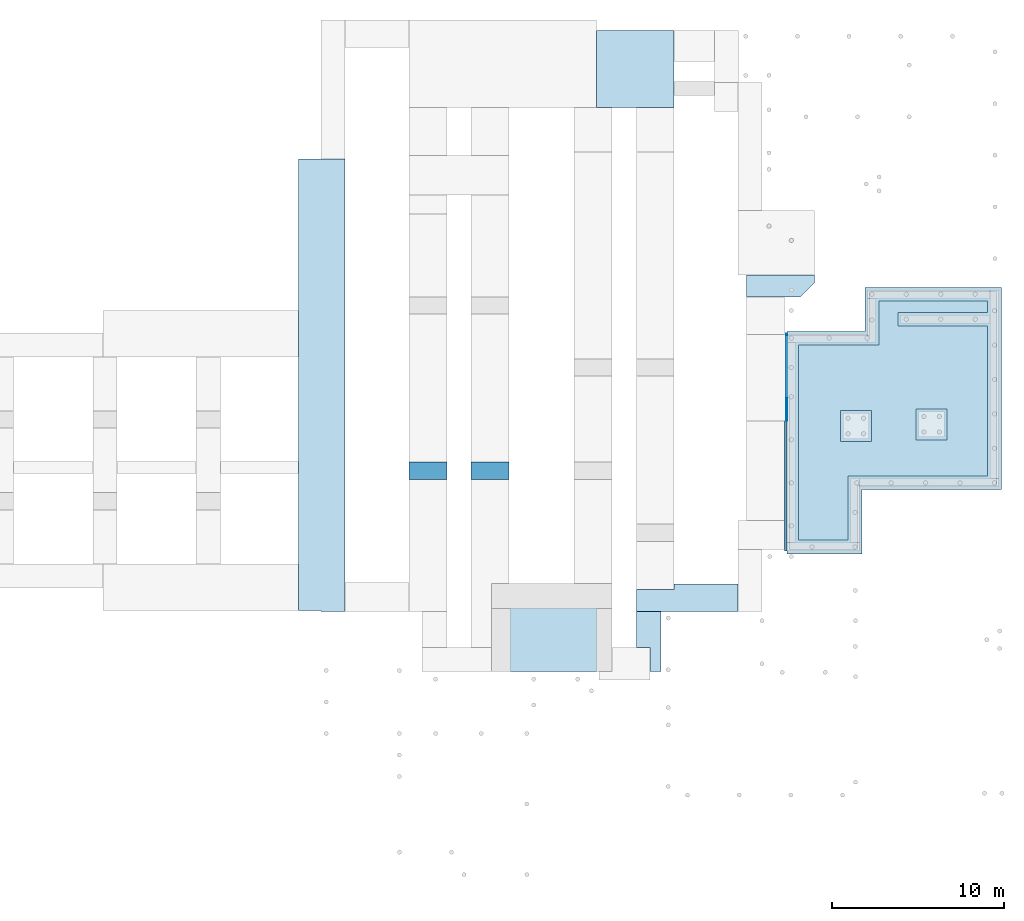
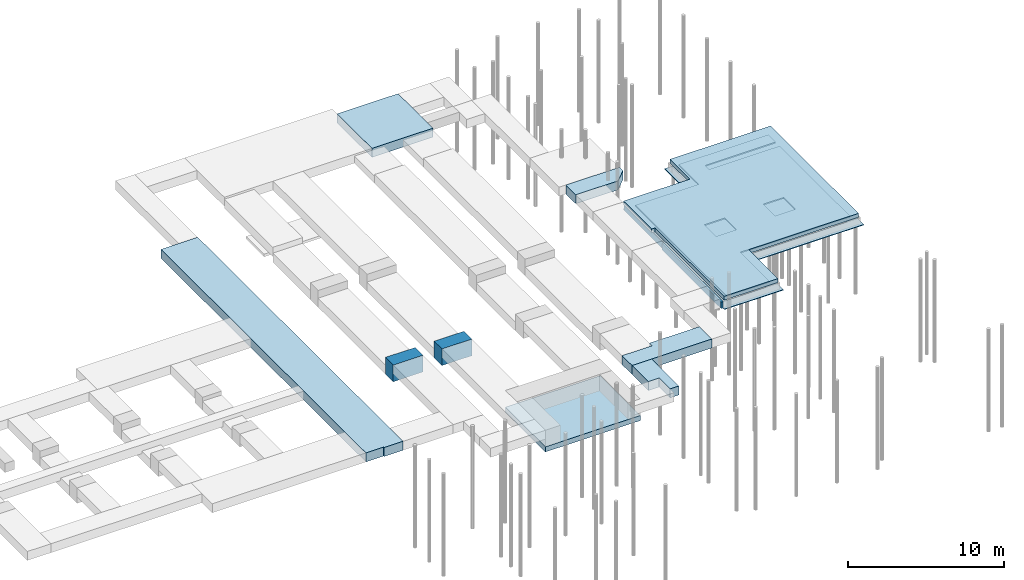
# One storey, part 4 of 4: 7 footings, 4 slabs, 2 walls.
"""IFC4 building model written with IfcOpenShell, lengths in metres."""

from ifc_helpers import new_model, entity, si_unit, converted_unit, derived_unit, frame, frame_2d, origin, origin_with_axes, place, context, subcontext, project, spatial, polyline, rectangle, outline, extrude, faceted_brep, material, layer, layer_set, layer_usage, element, save


model = new_model("IFC4")

# Units and contexts
model_context = context("Model", 3, precision=1e-05, world=origin())
body_context = subcontext(model_context, "Body", "Model", "MODEL_VIEW")
ifc_project = project(units=[si_unit("LENGTHUNIT", "METRE"), si_unit("AREAUNIT", "SQUARE_METRE"), si_unit("VOLUMEUNIT", "CUBIC_METRE"), si_unit("MASSUNIT", "GRAM", prefix="KILO"), converted_unit("PLANEANGLEUNIT", "DEGREE", entity("IfcPlaneAngleMeasure", 0.0174532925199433), si_unit("PLANEANGLEUNIT", "RADIAN"), dimensions=[0, 0, 0, 0, 0, 0, 0]), derived_unit("THERMALTRANSMITTANCEUNIT", [(si_unit("POWERUNIT", "WATT"), 1), (si_unit("THERMODYNAMICTEMPERATUREUNIT", "KELVIN"), -1), (si_unit("LENGTHUNIT", "METRE"), -2)]), derived_unit("VOLUMETRICFLOWRATEUNIT", [(si_unit("LENGTHUNIT", "METRE"), 3), (converted_unit("TIMEUNIT", "hour", entity("IfcTimeMeasure", 3600.0), si_unit("TIMEUNIT", "SECOND"), dimensions=[0, 0, 1, 0, 0, 0, 0]), -1), (si_unit("LENGTHUNIT", "METRE"), -1)])], contexts=[model_context])

# Site, building, storey
site_placement = place(None, origin())
site = spatial("IfcSite", under=ifc_project, at=site_placement, Name="3. ASŘ", CompositionType="ELEMENT")
building_placement = place(site_placement, origin())
building = spatial("IfcBuilding", under=site, at=building_placement, Name="Pavilon C", CompositionType="ELEMENT")
storey_placement = place(building_placement, frame((0.0, 0.0, -4.4)))
storey = spatial("IfcBuildingStorey", under=building, at=storey_placement, Name="Základy", CompositionType="ELEMENT", Elevation=-4.4)

# Footings
for number, where in (
    (1, (33.2498372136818, 6.7, -0.6)),
    (2, (29.6498372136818, 6.7, -0.6)),
):
    element("IfcFooting", number, at=place(storey_placement, frame(where)), inside=storey, PredefinedType="STRIP_FOOTING", context=body_context, shape_type="Brep", body=[
        faceted_brep([(0.000162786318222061, -9.09494701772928e-16, 0.0), (2.20016278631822, -9.09494701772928e-16, 0.0), (2.19999998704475, 1.00023875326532, 0.0), (0.0, 0.999999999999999, 0.0), (2.20016278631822, -9.09494701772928e-16, 1.3), (0.000162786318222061, -9.09494701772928e-16, 1.3), (0.0, 0.999999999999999, 1.3), (2.19999998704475, 1.00023875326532, 1.3)], [[[0, 1, 2, 3]], [[4, 5, 6, 7]], [[1, 0, 5, 4]], [[2, 1, 4, 7]], [[3, 2, 7, 6]], [[0, 3, 6, 5]]], orient=[[False], [False], [False], [False], [False], [False]]),
    ])
footing_1_placement = place(storey_placement, frame((40.55, 28.3, 0.0)))
element("IfcFooting", 3, at=footing_1_placement, inside=storey, PredefinedType="STRIP_FOOTING", context=body_context, shape_type="Brep", body=[
    faceted_brep([(4.5, 1.5, 0.0), (4.5, 4.45, 0.0), (0.0, 4.45, 0.0), (0.0, 0.0, 0.0), (4.5, 0.0, 0.0), (4.5, 0.7, 0.0), (4.49995, 0.7, 0.0), (4.49995, 1.5, 0.0), (4.5, 4.45, 0.7), (4.5, 1.5, 0.7), (4.49995, 1.5, 0.7), (4.49995, 0.7, 0.7), (4.5, 0.7, 0.7), (4.5, 0.0, 0.7), (0.0, 0.0, 0.7), (0.0, 4.45, 0.7)], [[[0, 1, 2, 3, 4, 5, 6, 7]], [[8, 9, 10, 11, 12, 13, 14, 15]], [[1, 0, 9, 8]], [[2, 1, 8, 15]], [[3, 2, 15, 14]], [[4, 3, 14, 13]], [[5, 4, 13, 12]], [[6, 5, 12, 11]], [[7, 6, 11, 10]], [[0, 7, 10, 9]]], orient=[[False], [False], [False], [False], [False], [False], [False], [False], [False], [False]]),
])
footing_2_placement = place(storey_placement, frame((49.25, 17.3, 0.0)))
element("IfcFooting", 4, at=footing_2_placement, inside=storey, PredefinedType="STRIP_FOOTING", context=body_context, shape_type="Brep", body=[
    faceted_brep([(3.12784271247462, 0.0, 0.0), (3.945, 0.817157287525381, 0.0), (3.945, 1.27, 0.0), (0.0, 1.27, 0.0), (0.0, 0.0, 0.0), (3.945, 0.817157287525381, 0.7), (3.12784271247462, 0.0, 0.7), (0.0, 0.0, 0.7), (0.0, 1.27, 0.7), (3.945, 1.27, 0.7)], [[[0, 1, 2, 3, 4]], [[5, 6, 7, 8, 9]], [[1, 0, 6, 5]], [[2, 1, 5, 9]], [[3, 2, 9, 8]], [[4, 3, 8, 7]], [[0, 4, 7, 6]]], orient=[[False], [False], [False], [False], [False], [False], [False]]),
])
footing_3_placement = place(storey_placement, frame((42.85, -4.45000000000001, 0.0)))
element("IfcFooting", 5, at=footing_3_placement, inside=storey, PredefinedType="STRIP_FOOTING", context=body_context, shape_type="Brep", body=[
    faceted_brep([(1.45, 3.48000000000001, 0.0), (0.0, 3.48000000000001, 0.0), (0.0, 1.4, 0.0), (0.8, 1.4, 0.0), (0.8, 0.0, 0.0), (1.45, 0.0, 0.0), (0.0, 3.48000000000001, 0.7), (1.45, 3.48000000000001, 0.7), (1.45, 0.0, 0.7), (0.8, 0.0, 0.7), (0.8, 1.4, 0.7), (0.0, 1.4, 0.7)], [[[0, 1, 2, 3, 4, 5]], [[6, 7, 8, 9, 10, 11]], [[1, 0, 7, 6]], [[2, 1, 6, 11]], [[3, 2, 11, 10]], [[4, 3, 10, 9]], [[5, 4, 9, 8]], [[0, 5, 8, 7]]], orient=[[False], [False], [False], [False], [False], [False], [False], [False]]),
])
footing_4_placement = place(storey_placement, frame((42.85, -0.970000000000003, 0.0)))
element("IfcFooting", 6, at=footing_4_placement, inside=storey, PredefinedType="STRIP_FOOTING", context=body_context, shape_type="Brep", body=[
    faceted_brep([(0.0, 1.26999999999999, 0.0), (0.0, 0.0, 0.0), (5.9, 0.0, 0.0), (5.9, 1.6, 0.0), (2.2, 1.6, 0.0), (2.2, 1.26999999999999, 0.0), (0.0, 0.0, 0.7), (0.0, 1.26999999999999, 0.7), (2.2, 1.26999999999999, 0.7), (2.2, 1.6, 0.7), (5.9, 1.6, 0.7), (5.9, 0.0, 0.7)], [[[0, 1, 2, 3, 4, 5]], [[6, 7, 8, 9, 10, 11]], [[1, 0, 7, 6]], [[2, 1, 6, 11]], [[3, 2, 11, 10]], [[4, 3, 10, 9]], [[5, 4, 9, 8]], [[0, 5, 8, 7]]], orient=[[False], [False], [False], [False], [False], [False], [False], [False]]),
])
footing_5_placement = place(storey_placement, frame((23.245, -0.970000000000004, 0.0)))
element("IfcFooting", 7, at=footing_5_placement, inside=storey, PredefinedType="STRIP_FOOTING", context=body_context, shape_type="Brep", body=[
    faceted_brep([(1.305, 9.09494701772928e-16, 0.0), (2.70499999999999, 9.09494701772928e-16, 0.0), (2.70500000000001, 26.27, 0.0), (1.09139364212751e-14, 26.27, 0.0), (0.0, 0.0649999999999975, 0.0), (1.305, 0.0649999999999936, 0.0), (2.70499999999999, 9.09494701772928e-16, 0.7), (1.305, 9.09494701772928e-16, 0.7), (1.305, 0.0649999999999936, 0.7), (0.0, 0.0649999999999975, 0.7), (1.09139364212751e-14, 26.27, 0.7), (2.70500000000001, 26.27, 0.7)], [[[0, 1, 2, 3, 4, 5]], [[6, 7, 8, 9, 10, 11]], [[1, 0, 7, 6]], [[2, 1, 6, 11]], [[3, 2, 11, 10]], [[4, 3, 10, 9]], [[5, 4, 9, 8]], [[0, 5, 8, 7]]], orient=[[False], [False], [False], [False], [False], [False], [False], [False]]),
])

# Slabs
slab_1_placement = place(storey_placement, frame((34.45, -4.45, -1.0)))
element("IfcSlab", 8, at=slab_1_placement, inside=storey, PredefinedType="BASESLAB", context=body_context, shape_type="SweptSolid", body=[
    extrude(rectangle(XDim=7.00000000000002, YDim=5.12, at=frame_2d((-3.50000000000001, -2.56), x_axis=(-1.0, 0.0))), frame((7.00000000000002, 5.12, 0.0), z_axis=(0.0, 0.0, 1.0), x_axis=(1.0, 0.0, 0.0)), (0.0, 0.0, 1.0), 0.4),
])
ifc_material_1 = material(Name="ŽB ZÁKLADOVÁ DESKA")
slab_2_placement = place(storey_placement, frame((51.475, 2.63, 0.5)))
element("IfcSlab", 9, at=slab_2_placement, inside=storey, material=ifc_material_1, PredefinedType="BASESLAB", context=body_context, shape_type="SweptSolid", body=[
    extrude(outline(polyline([(0.0, 12.42), (0.0, 8.81999999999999), (0.255, 8.82), (0.255, 0.0), (4.22499999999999, 0.0), (4.22499999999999, 3.71999999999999), (12.325, 3.71999999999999), (12.325, 14.97), (4.90388830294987, 14.97), (4.90388830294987, 12.42), (0.0, 12.42)])), origin_with_axes(), (0.0, 0.0, 1.0), 0.3),
])
ifc_material_2 = material(Name="BETONOVÁ KCE")
slab_3_placement = place(storey_placement, frame((52.105, 3.03, 0.4)))
element("IfcSlab", 10, at=slab_3_placement, inside=storey, material=ifc_material_2, Name="Podkladní beton", PredefinedType="FLOOR", context=body_context, shape_type="SweptSolid", body=[
    extrude(outline(polyline([(0.0, 11.62), (0.0, 0.0), (3.19499999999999, 0.0), (3.19499999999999, 3.71999999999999), (11.295, 3.71999999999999), (11.295, 12.72), (6.09499999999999, 12.72), (6.09499999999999, 13.22), (11.295, 13.22), (11.295, 14.17), (4.67388830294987, 14.17), (4.67388830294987, 11.62), (0.0, 11.62)]), holes=[polyline([(4.24499999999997, 6.01999999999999), (2.74499999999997, 6.01999999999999), (2.74499999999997, 7.51999999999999), (4.24499999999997, 7.51999999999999), (4.24499999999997, 6.01999999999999)]), polyline([(7.14499999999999, 6.11999999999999), (7.14499999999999, 7.61999999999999), (8.64499999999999, 7.61999999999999), (8.64499999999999, 6.11999999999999), (7.14499999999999, 6.11999999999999)])]), origin_with_axes(), (0.0, 0.0, 1.0), 0.1),
])
ifc_material_3 = material(Name="BETONOVÁ KCE")
slab_4_placement = place(storey_placement, frame((51.605, 2.38, -0.05)))
element("IfcSlab", 11, at=slab_4_placement, inside=storey, material=ifc_material_3, Name="Podkladní beton", PredefinedType="FLOOR", context=body_context, shape_type="SweptSolid", body=[
    extrude(outline(polyline([(0.0, 12.92), (0.0, 0.0), (4.34499999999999, 0.0), (4.34499999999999, 3.71999999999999), (12.445, 3.71999999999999), (12.445, 15.47), (4.52388830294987, 15.47), (4.52388830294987, 12.92), (0.0, 12.92)]), holes=[polyline([(3.54499999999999, 0.8), (0.65, 0.8), (0.65, 12.12), (5.32388830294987, 12.12), (5.32388830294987, 14.67), (11.645, 14.67), (11.645, 14.02), (6.44499999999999, 14.02), (6.44499999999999, 13.22), (11.645, 13.22), (11.645, 4.51999999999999), (3.54499999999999, 4.51999999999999), (3.54499999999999, 0.8)])]), origin_with_axes(), (0.0, 0.0, 1.0), 0.05),
    extrude(rectangle(XDim=1.8, YDim=1.8, at=frame_2d((0.9, 0.9), x_axis=(1.0, 0.0))), frame((7.49499999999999, 6.61999999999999, 0.0), z_axis=(0.0, 0.0, 1.0), x_axis=(1.0, 0.0, 0.0)), (0.0, 0.0, 1.0), 0.05),
    extrude(rectangle(XDim=1.8, YDim=1.8, at=frame_2d((0.9, -0.9), x_axis=(0.0, -1.0))), frame((3.09499999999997, 8.31999999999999, 0.0), z_axis=(0.0, 0.0, 1.0), x_axis=(1.0, 0.0, 0.0)), (0.0, 0.0, 1.0), 0.05),
])

# Walls
ifc_material_4 = material(Name="PERIMETR")
ifc_layer_1 = layer(ifc_material_4, 0.15)
ifc_layer_set_1 = layer_set([ifc_layer_1])
ifc_layer_usage_1 = layer_usage(ifc_layer_set_1, "AXIS2", "POSITIVE", 0.0)
wall_1_placement = place(storey_placement, frame((51.605, 2.53, 0.0), z_axis=(0.0, 0.0, 1.0), x_axis=(0.0, 1.0, 0.0)))
element("IfcWall", 12, at=wall_1_placement, inside=storey, material=ifc_layer_usage_1, Name="PERIMETR", context=body_context, shape_type="SweptSolid", body=[
    extrude(rectangle(XDim=7.57, YDim=0.15, at=frame_2d((3.785, 0.075), x_axis=(1.0, 0.0))), origin_with_axes(), (0.0, 0.0, 1.0), 0.5),
])
ifc_material_5 = material(Name="PERIMETR")
ifc_layer_2 = layer(ifc_material_5, 0.05)
ifc_layer_set_2 = layer_set([ifc_layer_2])
ifc_layer_usage_2 = layer_usage(ifc_layer_set_2, "AXIS2", "POSITIVE", 0.0)
wall_2_placement = place(storey_placement, frame((51.605, 10.1, 0.0), z_axis=(0.0, 0.0, 1.0), x_axis=(0.0, 1.0, 0.0)))
element("IfcWall", 13, at=wall_2_placement, inside=storey, material=ifc_layer_usage_2, Name="PERIMETR", context=body_context, shape_type="SweptSolid", body=[
    extrude(rectangle(XDim=5.05, YDim=0.05, at=frame_2d((2.525, 0.025), x_axis=(1.0, 0.0))), origin_with_axes(), (0.0, 0.0, 1.0), 0.5),
])

save(model, "model.ifc")
